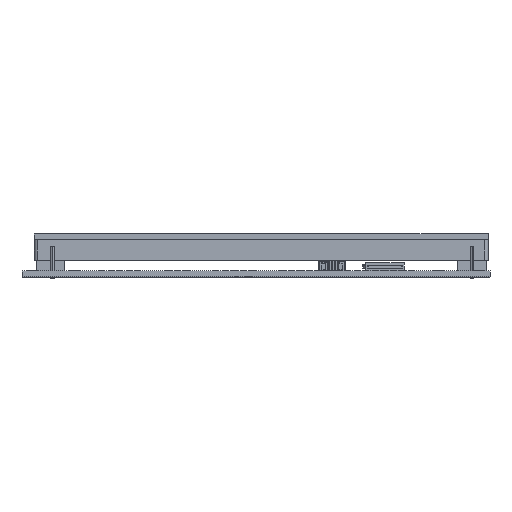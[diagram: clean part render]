
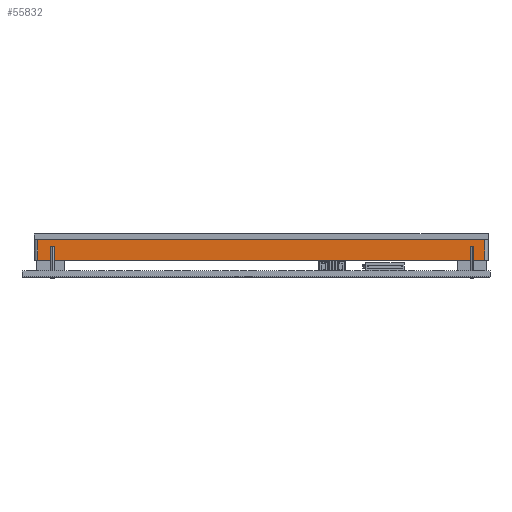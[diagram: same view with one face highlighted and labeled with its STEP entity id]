
A CAD part, top view. The second image highlights one B-rep face of the part: STEP entity #55832.
In plain terms, the highlighted planar face has unit normal (0, 0, 1).
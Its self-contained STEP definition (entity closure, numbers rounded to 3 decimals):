
#579 = EDGE_CURVE ( 'NONE', #52523, #55206, #52379, .T. ) ;
#4624 = VECTOR ( 'NONE', #43409, 1000. ) ;
#4650 = AXIS2_PLACEMENT_3D ( 'NONE', #53281, #39889, #13094 ) ;
#5554 = EDGE_CURVE ( 'NONE', #38465, #55206, #45841, .T. ) ;
#6144 = EDGE_LOOP ( 'NONE', ( #33709, #40127, #24447, #48966 ) ) ;
#13094 = DIRECTION ( 'NONE',  ( -1., 0., 0. ) ) ;
#14687 = VECTOR ( 'NONE', #55293, 1000. ) ;
#15102 = CARTESIAN_POINT ( 'NONE',  ( -35.209, 5.8, 69.736 ) ) ;
#18725 = LINE ( 'NONE', #24071, #53083 ) ;
#19943 = VERTEX_POINT ( 'NONE', #48614 ) ;
#24071 = CARTESIAN_POINT ( 'NONE',  ( -36.209, 0., 69.736 ) ) ;
#24447 = ORIENTED_EDGE ( 'NONE', *, *, #56100, .T. ) ;
#26604 = LINE ( 'NONE', #15102, #14687 ) ;
#29627 = CARTESIAN_POINT ( 'NONE',  ( 89.791, 5.8, 69.736 ) ) ;
#33461 = FACE_OUTER_BOUND ( 'NONE', #6144, .T. ) ;
#33709 = ORIENTED_EDGE ( 'NONE', *, *, #579, .F. ) ;
#38465 = VERTEX_POINT ( 'NONE', #48722 ) ;
#39889 = DIRECTION ( 'NONE',  ( 0., 0., -1. ) ) ;
#40127 = ORIENTED_EDGE ( 'NONE', *, *, #49697, .T. ) ;
#41817 = CARTESIAN_POINT ( 'NONE',  ( -36.209, 5.8, 69.736 ) ) ;
#43409 = DIRECTION ( 'NONE',  ( 1., 0., 0. ) ) ;
#45841 = LINE ( 'NONE', #45945, #56359 ) ;
#45945 = CARTESIAN_POINT ( 'NONE',  ( 89.791, 5.8, 69.736 ) ) ;
#48614 = CARTESIAN_POINT ( 'NONE',  ( -35.209, 0., 69.736 ) ) ;
#48722 = CARTESIAN_POINT ( 'NONE',  ( 89.791, 0., 69.736 ) ) ;
#48966 = ORIENTED_EDGE ( 'NONE', *, *, #5554, .T. ) ;
#49697 = EDGE_CURVE ( 'NONE', #52523, #19943, #26604, .T. ) ;
#50890 = CARTESIAN_POINT ( 'NONE',  ( -35.209, 5.8, 69.736 ) ) ;
#52379 = LINE ( 'NONE', #41817, #4624 ) ;
#52523 = VERTEX_POINT ( 'NONE', #50890 ) ;
#53083 = VECTOR ( 'NONE', #55397, 1000. ) ;
#53281 = CARTESIAN_POINT ( 'NONE',  ( -36.209, 5.8, 69.736 ) ) ;
#54953 = DIRECTION ( 'NONE',  ( 0., 1., 0. ) ) ;
#55206 = VERTEX_POINT ( 'NONE', #29627 ) ;
#55293 = DIRECTION ( 'NONE',  ( 0., -1., 0. ) ) ;
#55397 = DIRECTION ( 'NONE',  ( 1., 0., 0. ) ) ;
#55832 = ADVANCED_FACE ( 'NONE', ( #33461 ), #57812, .F. ) ;
#56100 = EDGE_CURVE ( 'NONE', #19943, #38465, #18725, .T. ) ;
#56359 = VECTOR ( 'NONE', #54953, 1000. ) ;
#57812 = PLANE ( 'NONE',  #4650 ) ;
